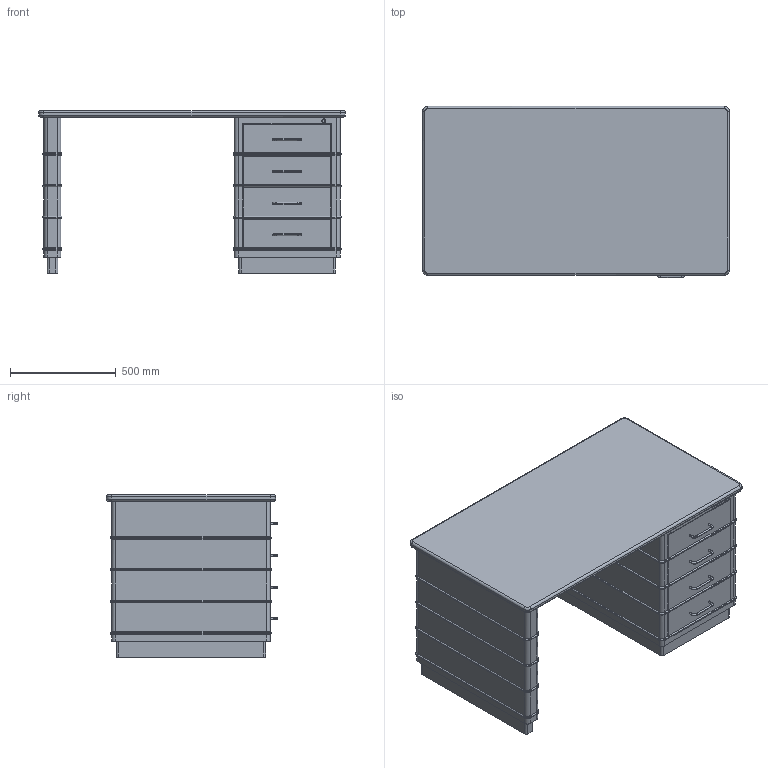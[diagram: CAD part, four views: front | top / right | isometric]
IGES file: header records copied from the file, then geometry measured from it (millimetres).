
Start section: Comment
Global section: file name: TB225-2.igs; native system:  By UGS Corp.; preprocessor: XPlus GENERIC/IGES 3.0; author: Author; organization: Title; date: 20140828.093143; units: inch
Bounding box: 1450 x 810 x 768 mm (x, y, z)
Surface area: 5645422.2 mm2 (no closed solid volume)
Topology: 0 solids, 0 shells, 418 faces, 1860 edges, 1860 vertices
Faces by surface type: bspline 418
